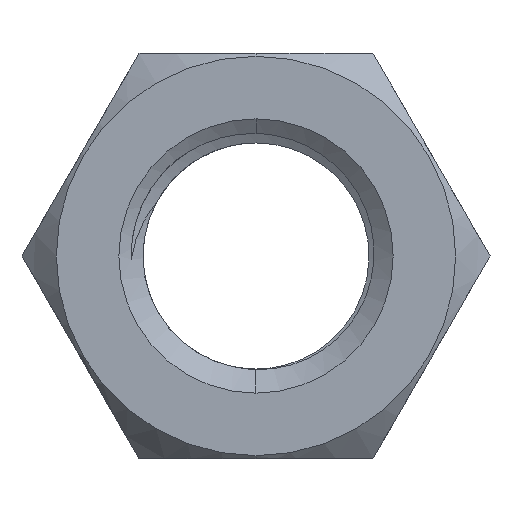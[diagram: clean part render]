
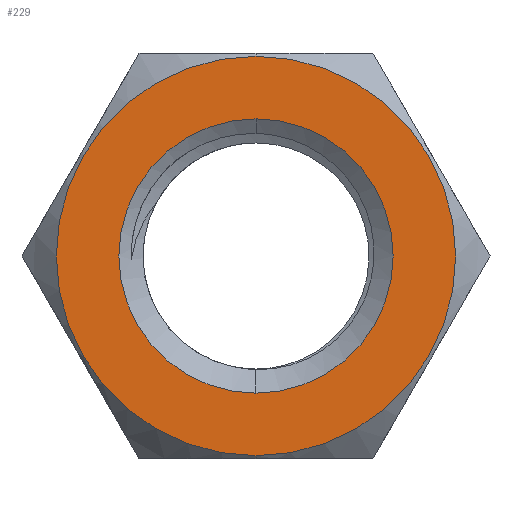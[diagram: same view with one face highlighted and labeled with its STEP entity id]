
A CAD part, front view. The second image highlights one B-rep face of the part: STEP entity #229.
In plain terms, the highlighted planar face has unit normal (0, -1, 0).
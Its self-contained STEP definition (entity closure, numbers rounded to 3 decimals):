
#86 = AXIS2_PLACEMENT_3D ( 'NONE', #199, #2947, #2467 ) ;
#93 = DIRECTION ( 'NONE',  ( 0., 1., 0. ) ) ;
#179 = CARTESIAN_POINT ( 'NONE',  ( 0., -3.25, 0. ) ) ;
#186 = CIRCLE ( 'NONE', #86, 4.4 ) ;
#199 = CARTESIAN_POINT ( 'NONE',  ( 0., -3.25, 0. ) ) ;
#211 = VERTEX_POINT ( 'NONE', #2701 ) ;
#229 = ADVANCED_FACE ( 'NONE', ( #2904, #2688 ), #430, .F. ) ;
#429 = ORIENTED_EDGE ( 'NONE', *, *, #1179, .T. ) ;
#430 = PLANE ( 'NONE',  #2806 ) ;
#431 = CARTESIAN_POINT ( 'NONE',  ( 0., -3.25, 0. ) ) ;
#451 = EDGE_LOOP ( 'NONE', ( #429, #494 ) ) ;
#488 = EDGE_CURVE ( 'NONE', #2838, #2633, #186, .T. ) ;
#494 = ORIENTED_EDGE ( 'NONE', *, *, #2015, .T. ) ;
#500 = CIRCLE ( 'NONE', #1343, 4.4 ) ;
#512 = EDGE_LOOP ( 'NONE', ( #2556, #1622 ) ) ;
#691 = DIRECTION ( 'NONE',  ( 0., -1., 0. ) ) ;
#803 = DIRECTION ( 'NONE',  ( 0., 0., -1. ) ) ;
#882 = CIRCLE ( 'NONE', #3183, 6.406 ) ;
#887 = CARTESIAN_POINT ( 'NONE',  ( 0., -3.25, -4.4 ) ) ;
#1017 = VERTEX_POINT ( 'NONE', #2407 ) ;
#1179 = EDGE_CURVE ( 'NONE', #1017, #211, #2544, .T. ) ;
#1237 = DIRECTION ( 'NONE',  ( 0., -1., 0. ) ) ;
#1343 = AXIS2_PLACEMENT_3D ( 'NONE', #3016, #1237, #1532 ) ;
#1462 = DIRECTION ( 'NONE',  ( 0., 0., 1. ) ) ;
#1532 = DIRECTION ( 'NONE',  ( 0., 0., -1. ) ) ;
#1622 = ORIENTED_EDGE ( 'NONE', *, *, #1762, .F. ) ;
#1629 = CARTESIAN_POINT ( 'NONE',  ( 0., -3.25, 4.4 ) ) ;
#1649 = DIRECTION ( 'NONE',  ( 0., 0., -1. ) ) ;
#1762 = EDGE_CURVE ( 'NONE', #2633, #2838, #500, .T. ) ;
#1847 = CARTESIAN_POINT ( 'NONE',  ( 0., -3.25, 0. ) ) ;
#2015 = EDGE_CURVE ( 'NONE', #211, #1017, #882, .T. ) ;
#2232 = AXIS2_PLACEMENT_3D ( 'NONE', #431, #691, #1649 ) ;
#2407 = CARTESIAN_POINT ( 'NONE',  ( 0., -3.25, 6.406 ) ) ;
#2467 = DIRECTION ( 'NONE',  ( 0., 0., -1. ) ) ;
#2544 = CIRCLE ( 'NONE', #2232, 6.406 ) ;
#2556 = ORIENTED_EDGE ( 'NONE', *, *, #488, .F. ) ;
#2633 = VERTEX_POINT ( 'NONE', #887 ) ;
#2688 = FACE_OUTER_BOUND ( 'NONE', #451, .T. ) ;
#2701 = CARTESIAN_POINT ( 'NONE',  ( 0., -3.25, -6.406 ) ) ;
#2806 = AXIS2_PLACEMENT_3D ( 'NONE', #179, #93, #1462 ) ;
#2838 = VERTEX_POINT ( 'NONE', #1629 ) ;
#2904 = FACE_BOUND ( 'NONE', #512, .T. ) ;
#2947 = DIRECTION ( 'NONE',  ( 0., -1., 0. ) ) ;
#3016 = CARTESIAN_POINT ( 'NONE',  ( 0., -3.25, 0. ) ) ;
#3054 = DIRECTION ( 'NONE',  ( 0., -1., 0. ) ) ;
#3183 = AXIS2_PLACEMENT_3D ( 'NONE', #1847, #3054, #803 ) ;
